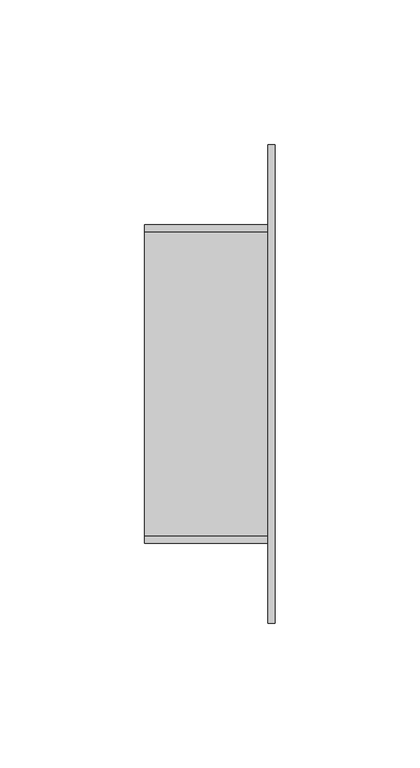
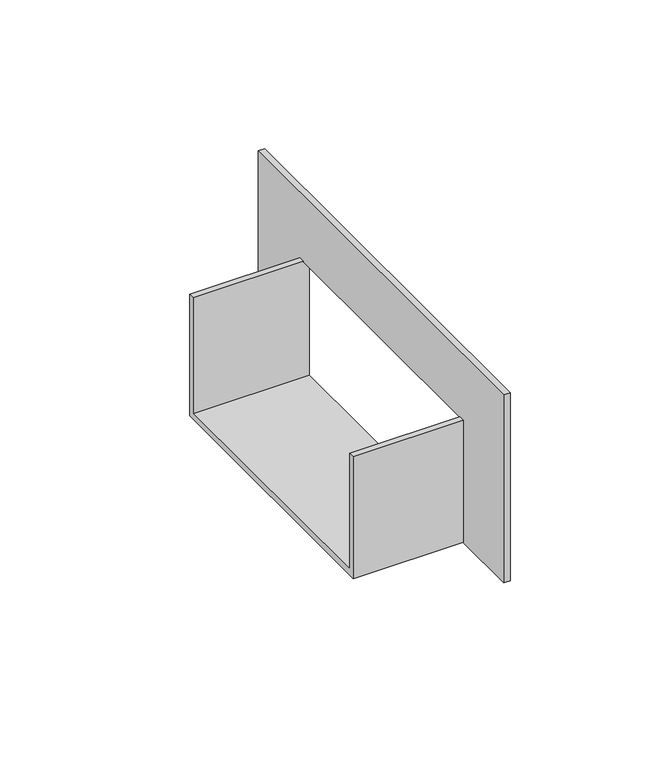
"""IFC4 building model written with IfcOpenShell, lengths in millimetres: cable carrier fitting geometry, КНС_ВводВСтену_ILF_DKC : Белый."""

from ifc_helpers import new_model, si_unit, frame, origin, place, context, project, spatial, polyline, outline, extrude, source, transform, mapped, element, save


def cable_carrier_fitting_d3d0ba5e(model_context):
    return source(origin(), model_context, "Body", "SweptSolid", [
        extrude(outline(polyline([(55.0, -25.0), (-55.0, -25.0), (-55.0, 25.0), (-52.5, 25.0), (-52.5, -22.5), (52.5, -22.5), (52.5, 25.0), (55.0, 25.0), (55.0, -25.0)])), frame((-45.0, 0.0, 0.0), z_axis=(1.0, 0.0, 0.0), x_axis=(0.0, 1.0, 0.0)), (0.0, 0.0, 1.0), 45.0),
        extrude(outline(polyline([(55.0, -25.0), (55.0, 25.0), (-55.0, 25.0), (-55.0, -25.0), (-82.5, -25.0), (-82.5, 52.2), (82.5, 52.2), (82.5, -25.0), (55.0, -25.0)])), frame((-2.5, 0.0, 0.0), z_axis=(1.0, 0.0, 0.0), x_axis=(0.0, 1.0, 0.0)), (0.0, 0.0, 1.0), 2.5),
    ])


if __name__ == "__main__":
    model = new_model("IFC4")
    model_context = context("Model", 3, world=origin())
    ifc_project = project(units=[si_unit("LENGTHUNIT", "METRE", prefix="MILLI")], contexts=[model_context])
    site = spatial("IfcSite", under=ifc_project)
    building = spatial("IfcBuilding", under=site)
    placement = place(None, origin())
    cable_carrier_fitting_shape = cable_carrier_fitting_d3d0ba5e(model_context)
    element("IfcCableCarrierFitting", 1, ObjectType="КНС_ВводВСтену_ILF_DKC : Белый", at=placement, inside=building, context=model_context, shape_type="MappedRepresentation", body=[
        mapped(cable_carrier_fitting_shape, transform((0.0, 0.0, 0.0), x_axis=(1.0, 0.0, 0.0), y_axis=(0.0, 1.0, 0.0), z_axis=(0.0, 0.0, 1.0))),
    ])
    save(model, "model.ifc")
